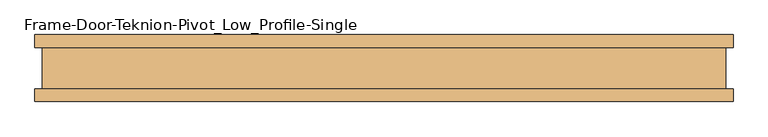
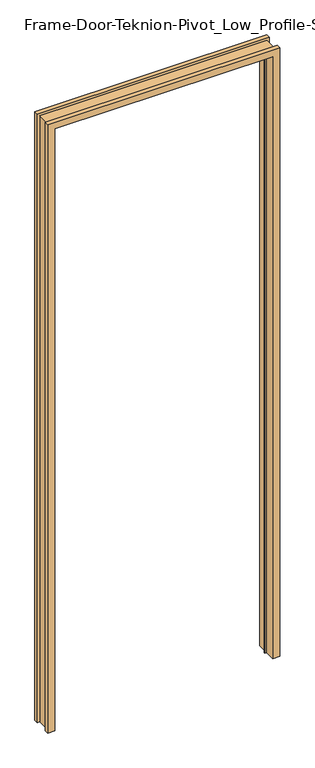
"""IFC4 building model written with IfcOpenShell, lengths in millimetres: door geometry, Frame-Door-Teknion-Pivot_Low_Profile-Single : FPFHS."""

from ifc_helpers import new_model, si_unit, origin, place, context, project, spatial, faceted_brep, source, transform, mapped, element, save


def frame_door_teknion_pivot_low_profile_single_35d458af(model_context):
    return source(origin(), model_context, "Body", "Brep", [
        faceted_brep([(-497.4021296, 50.8, 0.0), (-497.4021296, 0.2091047, 0.0), (-487.8833733, 0.2091047, 0.0), (-487.8833733, -3.8523166, 0.0), (-497.4021296, -3.8523166, 0.0), (-497.4021296, -50.8, 0.0), (-530.4157565, -50.8, 0.0), (-530.4157565, -31.5339997, 0.0), (-519.4101562, -31.5339997, 0.0), (-519.4101562, 31.5339997, 0.0), (-530.4157565, 31.5339997, 0.0), (-530.4157565, 50.8, 0.0), (497.4021296, 50.8, 0.0), (530.4157565, 50.8, 0.0), (530.4157565, 31.5339997, 0.0), (519.4101563, 31.5339997, 0.0), (519.4101563, -31.5339997, 0.0), (530.4157565, -31.5339997, 0.0), (530.4157565, -50.8, 0.0), (497.4021296, -50.8, 0.0), (497.4021296, -3.8523166, 0.0), (487.8833733, -3.8523166, 0.0), (487.8833733, 0.2091047, 0.0), (497.4021296, 0.2091047, 0.0), (-530.4157565, 50.8, 2941.32), (530.4157565, 50.8, 2941.32), (497.4021296, 50.8, 2908.3063731), (-497.4021296, 50.8, 2908.3063731), (-530.4157565, 31.5339997, 2941.32), (-519.4101562, 31.5339997, 2930.3143997), (519.4101563, 31.5339997, 2930.3143997), (530.4157565, 31.5339997, 2941.32), (-519.4101562, -31.5339997, 2930.3143997), (-530.4157565, -31.5339997, 2941.32), (530.4157565, -31.5339997, 2941.32), (519.4101563, -31.5339997, 2930.3143997), (-530.4157565, -50.8, 2941.32), (-497.4021296, -50.8, 2908.3063731), (497.4021296, -50.8, 2908.3063731), (530.4157565, -50.8, 2941.32), (-497.4021296, -3.8523166, 2908.3063731), (-487.8833733, -3.8523166, 2898.7876167), (487.8833733, -3.8523166, 2898.7876167), (497.4021296, -3.8523166, 2908.3063731), (-487.8833733, 0.2091047, 2898.7876167), (-497.4021296, 0.2091047, 2908.3063731), (497.4021296, 0.2091047, 2908.3063731), (487.8833733, 0.2091047, 2898.7876167)], [[[0, 1, 2, 3, 4, 5, 6, 7, 8, 9, 10, 11]], [[12, 13, 14, 15, 16, 17, 18, 19, 20, 21, 22, 23]], [[11, 24, 25, 13, 12, 26, 27, 0]], [[10, 28, 24, 11]], [[9, 29, 30, 15, 14, 31, 28, 10]], [[8, 32, 29, 9]], [[7, 33, 34, 17, 16, 35, 32, 8]], [[6, 36, 33, 7]], [[5, 37, 38, 19, 18, 39, 36, 6]], [[4, 40, 37, 5]], [[3, 41, 42, 21, 20, 43, 40, 4]], [[2, 44, 41, 3]], [[1, 45, 46, 23, 22, 47, 44, 2]], [[0, 27, 45, 1]], [[26, 12, 23, 46]], [[47, 22, 21, 42]], [[43, 20, 19, 38]], [[39, 18, 17, 34]], [[35, 16, 15, 30]], [[31, 14, 13, 25]], [[28, 31, 25, 24]], [[32, 35, 30, 29]], [[36, 39, 34, 33]], [[40, 43, 38, 37]], [[44, 47, 42, 41]], [[27, 26, 46, 45]]]),
    ])


if __name__ == "__main__":
    model = new_model("IFC4")
    model_context = context("Model", 3, world=origin())
    ifc_project = project(units=[si_unit("LENGTHUNIT", "METRE", prefix="MILLI")], contexts=[model_context])
    site = spatial("IfcSite", under=ifc_project)
    building = spatial("IfcBuilding", under=site)
    placement = place(None, origin())
    frame_door_teknion_pivot_low_profile_single_shape = frame_door_teknion_pivot_low_profile_single_35d458af(model_context)
    element("IfcDoor", 1, ObjectType="Frame-Door-Teknion-Pivot_Low_Profile-Single : FPFHS", at=placement, inside=building, context=model_context, shape_type="MappedRepresentation", body=[
        mapped(frame_door_teknion_pivot_low_profile_single_shape, transform((0.0, 0.0, 0.0), x_axis=(1.0, 0.0, 0.0), y_axis=(0.0, 1.0, 0.0), z_axis=(0.0, 0.0, 1.0))),
    ])
    save(model, "model.ifc")
